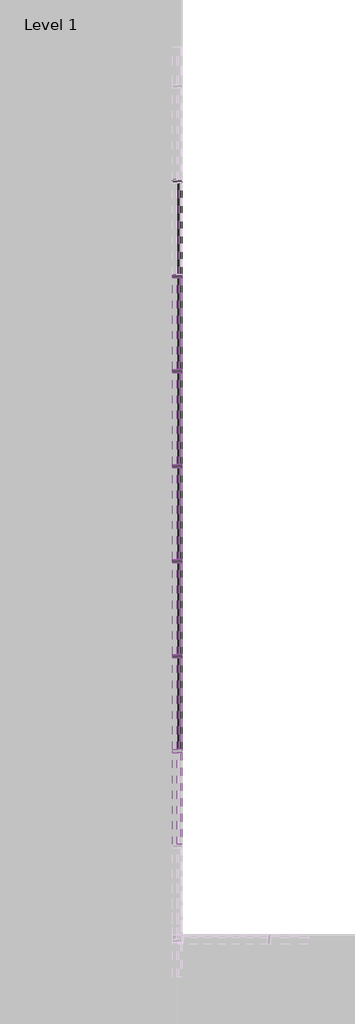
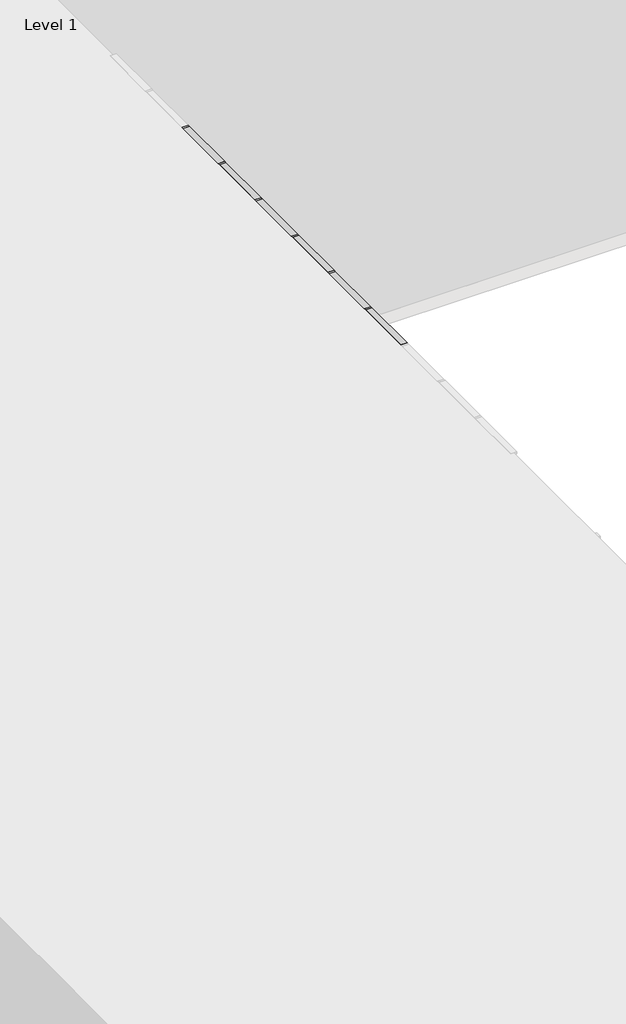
# One storey, part 12 of 27: 92 members, 43 plates.
"""IFC4 building model written with IfcOpenShell, lengths in millimetres."""

from ifc_helpers import new_model, si_unit, origin, place, context, project, spatial, transform, mapped, element, save
from components import rectangular_mullion_50mm_x_150mm_70cae3e1, rectangular_mullion_50mm_x_150mm_5226f6e8, rectangular_mullion_50mm_x_150mm_bbc1c4ea, rectangular_mullion_50mm_x_150mm_36202a7c, rectangular_mullion_50mm_x_150mm_84717ec5, system_panel_glazed_979b1f5c, system_panel_glazed_2f061a2c, system_panel_solid_7338a288, system_panel_solid_0b170172

model = new_model("IFC4")

# Units and contexts
model_context = context("Model", 3, world=origin())
ifc_project = project(units=[si_unit("LENGTHUNIT", "METRE", prefix="MILLI")], contexts=[model_context])

# Site, building, storey
site = spatial("IfcSite", under=ifc_project)
building = spatial("IfcBuilding", under=site)
storey = spatial("IfcBuildingStorey", under=building, Name="Level 1", Elevation=0.0)

# Members
placement = place(None, origin())
rectangular_mullion_50mm_x_150mm_shape = rectangular_mullion_50mm_x_150mm_70cae3e1(model_context)
element("IfcMember", 1, ObjectType="Rectangular Mullion : 50mm x 150mm", at=placement, inside=storey, context=model_context, shape_type="MappedRepresentation", body=[
    mapped(rectangular_mullion_50mm_x_150mm_shape, transform((7447.5010724, 4367.3626463, 12400.0), x_axis=(0.0, 0.0, 1.0), y_axis=(1.0, 0.0, 0.0), z_axis=(0.0, 1.0, 0.0))),
])
element("IfcMember", 2, ObjectType="Rectangular Mullion : 50mm x 150mm", at=placement, inside=storey, context=model_context, shape_type="MappedRepresentation", body=[
    mapped(rectangular_mullion_50mm_x_150mm_shape, transform((7447.5010724, 5869.6103022, 12400.0), x_axis=(0.0, 0.0, 1.0), y_axis=(1.0, 0.0, 0.0), z_axis=(0.0, 1.0, 0.0))),
])
element("IfcMember", 3, ObjectType="Rectangular Mullion : 50mm x 150mm", at=placement, inside=storey, context=model_context, shape_type="MappedRepresentation", body=[
    mapped(rectangular_mullion_50mm_x_150mm_shape, transform((7447.5010724, 7371.8579582, 12400.0), x_axis=(0.0, 0.0, 1.0), y_axis=(1.0, 0.0, 0.0), z_axis=(0.0, 1.0, 0.0))),
])
element("IfcMember", 4, ObjectType="Rectangular Mullion : 50mm x 150mm", at=placement, inside=storey, context=model_context, shape_type="MappedRepresentation", body=[
    mapped(rectangular_mullion_50mm_x_150mm_shape, transform((7447.5010724, 8874.1056141, 12400.0), x_axis=(0.0, 0.0, 1.0), y_axis=(1.0, 0.0, 0.0), z_axis=(0.0, 1.0, 0.0))),
])
element("IfcMember", 5, ObjectType="Rectangular Mullion : 50mm x 150mm", at=placement, inside=storey, context=model_context, shape_type="MappedRepresentation", body=[
    mapped(rectangular_mullion_50mm_x_150mm_shape, transform((7447.5010724, 10376.35327, 12400.0), x_axis=(0.0, 0.0, 1.0), y_axis=(1.0, 0.0, 0.0), z_axis=(0.0, 1.0, 0.0))),
])
element("IfcMember", 6, ObjectType="Rectangular Mullion : 50mm x 150mm", at=placement, inside=storey, context=model_context, shape_type="MappedRepresentation", body=[
    mapped(rectangular_mullion_50mm_x_150mm_shape, transform((7447.5010724, 11878.6009259, 12400.0), x_axis=(0.0, 0.0, 1.0), y_axis=(1.0, 0.0, 0.0), z_axis=(0.0, 1.0, 0.0))),
])
element("IfcMember", 7, ObjectType="Rectangular Mullion : 50mm x 150mm", at=placement, inside=storey, context=model_context, shape_type="MappedRepresentation", body=[
    mapped(rectangular_mullion_50mm_x_150mm_shape, transform((7447.5010724, 2915.1149904, 0.0), x_axis=(0.0, 0.0, -1.0), y_axis=(1.0, 0.0, 0.0), z_axis=(0.0, -1.0, 0.0))),
])
element("IfcMember", 8, ObjectType="Rectangular Mullion : 50mm x 150mm", at=placement, inside=storey, context=model_context, shape_type="MappedRepresentation", body=[
    mapped(rectangular_mullion_50mm_x_150mm_shape, transform((7447.5010724, 4417.3626463, 0.0), x_axis=(0.0, 0.0, -1.0), y_axis=(1.0, 0.0, 0.0), z_axis=(0.0, -1.0, 0.0))),
])
element("IfcMember", 9, ObjectType="Rectangular Mullion : 50mm x 150mm", at=placement, inside=storey, context=model_context, shape_type="MappedRepresentation", body=[
    mapped(rectangular_mullion_50mm_x_150mm_shape, transform((7447.5010724, 5919.6103022, 0.0), x_axis=(0.0, 0.0, -1.0), y_axis=(1.0, 0.0, 0.0), z_axis=(0.0, -1.0, 0.0))),
])
element("IfcMember", 10, ObjectType="Rectangular Mullion : 50mm x 150mm", at=placement, inside=storey, context=model_context, shape_type="MappedRepresentation", body=[
    mapped(rectangular_mullion_50mm_x_150mm_shape, transform((7447.5010724, 7421.8579582, 0.0), x_axis=(0.0, 0.0, -1.0), y_axis=(1.0, 0.0, 0.0), z_axis=(0.0, -1.0, 0.0))),
])
element("IfcMember", 11, ObjectType="Rectangular Mullion : 50mm x 150mm", at=placement, inside=storey, context=model_context, shape_type="MappedRepresentation", body=[
    mapped(rectangular_mullion_50mm_x_150mm_shape, transform((7447.5010724, 8924.1056141, 0.0), x_axis=(0.0, 0.0, -1.0), y_axis=(1.0, 0.0, 0.0), z_axis=(0.0, -1.0, 0.0))),
])
element("IfcMember", 12, ObjectType="Rectangular Mullion : 50mm x 150mm", at=placement, inside=storey, context=model_context, shape_type="MappedRepresentation", body=[
    mapped(rectangular_mullion_50mm_x_150mm_shape, transform((7447.5010724, 10426.35327, 0.0), x_axis=(0.0, 0.0, -1.0), y_axis=(1.0, 0.0, 0.0), z_axis=(0.0, -1.0, 0.0))),
])
rectangular_mullion_50mm_x_150mm_2_shape = rectangular_mullion_50mm_x_150mm_5226f6e8(model_context)
element("IfcMember", 13, ObjectType="Rectangular Mullion : 50mm x 150mm", at=placement, inside=storey, context=model_context, shape_type="MappedRepresentation", body=[
    mapped(rectangular_mullion_50mm_x_150mm_2_shape, transform((7447.5010724, 4367.3626463, 3800.0), x_axis=(0.0, 0.0, 1.0), y_axis=(1.0, 0.0, 0.0), z_axis=(0.0, 1.0, 0.0))),
])
element("IfcMember", 14, ObjectType="Rectangular Mullion : 50mm x 150mm", at=placement, inside=storey, context=model_context, shape_type="MappedRepresentation", body=[
    mapped(rectangular_mullion_50mm_x_150mm_2_shape, transform((7447.5010724, 5869.6103022, 3800.0), x_axis=(0.0, 0.0, 1.0), y_axis=(1.0, 0.0, 0.0), z_axis=(0.0, 1.0, 0.0))),
])
element("IfcMember", 15, ObjectType="Rectangular Mullion : 50mm x 150mm", at=placement, inside=storey, context=model_context, shape_type="MappedRepresentation", body=[
    mapped(rectangular_mullion_50mm_x_150mm_2_shape, transform((7447.5010724, 7371.8579582, 3800.0), x_axis=(0.0, 0.0, 1.0), y_axis=(1.0, 0.0, 0.0), z_axis=(0.0, 1.0, 0.0))),
])
element("IfcMember", 16, ObjectType="Rectangular Mullion : 50mm x 150mm", at=placement, inside=storey, context=model_context, shape_type="MappedRepresentation", body=[
    mapped(rectangular_mullion_50mm_x_150mm_2_shape, transform((7447.5010724, 8874.1056141, 3800.0), x_axis=(0.0, 0.0, 1.0), y_axis=(1.0, 0.0, 0.0), z_axis=(0.0, 1.0, 0.0))),
])
element("IfcMember", 17, ObjectType="Rectangular Mullion : 50mm x 150mm", at=placement, inside=storey, context=model_context, shape_type="MappedRepresentation", body=[
    mapped(rectangular_mullion_50mm_x_150mm_2_shape, transform((7447.5010724, 10376.35327, 3800.0), x_axis=(0.0, 0.0, 1.0), y_axis=(1.0, 0.0, 0.0), z_axis=(0.0, 1.0, 0.0))),
])
element("IfcMember", 18, ObjectType="Rectangular Mullion : 50mm x 150mm", at=placement, inside=storey, context=model_context, shape_type="MappedRepresentation", body=[
    mapped(rectangular_mullion_50mm_x_150mm_2_shape, transform((7447.5010724, 11878.6009259, 3800.0), x_axis=(0.0, 0.0, 1.0), y_axis=(1.0, 0.0, 0.0), z_axis=(0.0, 1.0, 0.0))),
])
element("IfcMember", 19, ObjectType="Rectangular Mullion : 50mm x 150mm", at=placement, inside=storey, context=model_context, shape_type="MappedRepresentation", body=[
    mapped(rectangular_mullion_50mm_x_150mm_2_shape, transform((7447.5010724, 4367.3626463, 7600.0), x_axis=(0.0, 0.0, 1.0), y_axis=(1.0, 0.0, 0.0), z_axis=(0.0, 1.0, 0.0))),
])
element("IfcMember", 20, ObjectType="Rectangular Mullion : 50mm x 150mm", at=placement, inside=storey, context=model_context, shape_type="MappedRepresentation", body=[
    mapped(rectangular_mullion_50mm_x_150mm_2_shape, transform((7447.5010724, 5869.6103022, 7600.0), x_axis=(0.0, 0.0, 1.0), y_axis=(1.0, 0.0, 0.0), z_axis=(0.0, 1.0, 0.0))),
])
element("IfcMember", 21, ObjectType="Rectangular Mullion : 50mm x 150mm", at=placement, inside=storey, context=model_context, shape_type="MappedRepresentation", body=[
    mapped(rectangular_mullion_50mm_x_150mm_2_shape, transform((7447.5010724, 7371.8579582, 7600.0), x_axis=(0.0, 0.0, 1.0), y_axis=(1.0, 0.0, 0.0), z_axis=(0.0, 1.0, 0.0))),
])
element("IfcMember", 22, ObjectType="Rectangular Mullion : 50mm x 150mm", at=placement, inside=storey, context=model_context, shape_type="MappedRepresentation", body=[
    mapped(rectangular_mullion_50mm_x_150mm_2_shape, transform((7447.5010724, 8874.1056141, 7600.0), x_axis=(0.0, 0.0, 1.0), y_axis=(1.0, 0.0, 0.0), z_axis=(0.0, 1.0, 0.0))),
])
element("IfcMember", 23, ObjectType="Rectangular Mullion : 50mm x 150mm", at=placement, inside=storey, context=model_context, shape_type="MappedRepresentation", body=[
    mapped(rectangular_mullion_50mm_x_150mm_2_shape, transform((7447.5010724, 10376.35327, 7600.0), x_axis=(0.0, 0.0, 1.0), y_axis=(1.0, 0.0, 0.0), z_axis=(0.0, 1.0, 0.0))),
])
element("IfcMember", 24, ObjectType="Rectangular Mullion : 50mm x 150mm", at=placement, inside=storey, context=model_context, shape_type="MappedRepresentation", body=[
    mapped(rectangular_mullion_50mm_x_150mm_2_shape, transform((7447.5010724, 11878.6009259, 7600.0), x_axis=(0.0, 0.0, 1.0), y_axis=(1.0, 0.0, 0.0), z_axis=(0.0, 1.0, 0.0))),
])
element("IfcMember", 25, ObjectType="Rectangular Mullion : 50mm x 150mm", at=placement, inside=storey, context=model_context, shape_type="MappedRepresentation", body=[
    mapped(rectangular_mullion_50mm_x_150mm_2_shape, transform((7447.5010724, 4367.3626463, 11400.0), x_axis=(0.0, 0.0, 1.0), y_axis=(1.0, 0.0, 0.0), z_axis=(0.0, 1.0, 0.0))),
])
element("IfcMember", 26, ObjectType="Rectangular Mullion : 50mm x 150mm", at=placement, inside=storey, context=model_context, shape_type="MappedRepresentation", body=[
    mapped(rectangular_mullion_50mm_x_150mm_2_shape, transform((7447.5010724, 5869.6103022, 11400.0), x_axis=(0.0, 0.0, 1.0), y_axis=(1.0, 0.0, 0.0), z_axis=(0.0, 1.0, 0.0))),
])
element("IfcMember", 27, ObjectType="Rectangular Mullion : 50mm x 150mm", at=placement, inside=storey, context=model_context, shape_type="MappedRepresentation", body=[
    mapped(rectangular_mullion_50mm_x_150mm_2_shape, transform((7447.5010724, 7371.8579582, 11400.0), x_axis=(0.0, 0.0, 1.0), y_axis=(1.0, 0.0, 0.0), z_axis=(0.0, 1.0, 0.0))),
])
element("IfcMember", 28, ObjectType="Rectangular Mullion : 50mm x 150mm", at=placement, inside=storey, context=model_context, shape_type="MappedRepresentation", body=[
    mapped(rectangular_mullion_50mm_x_150mm_2_shape, transform((7447.5010724, 8874.1056141, 11400.0), x_axis=(0.0, 0.0, 1.0), y_axis=(1.0, 0.0, 0.0), z_axis=(0.0, 1.0, 0.0))),
])
element("IfcMember", 29, ObjectType="Rectangular Mullion : 50mm x 150mm", at=placement, inside=storey, context=model_context, shape_type="MappedRepresentation", body=[
    mapped(rectangular_mullion_50mm_x_150mm_2_shape, transform((7447.5010724, 10376.35327, 11400.0), x_axis=(0.0, 0.0, 1.0), y_axis=(1.0, 0.0, 0.0), z_axis=(0.0, 1.0, 0.0))),
])
element("IfcMember", 30, ObjectType="Rectangular Mullion : 50mm x 150mm", at=placement, inside=storey, context=model_context, shape_type="MappedRepresentation", body=[
    mapped(rectangular_mullion_50mm_x_150mm_2_shape, transform((7447.5010724, 11878.6009259, 11400.0), x_axis=(0.0, 0.0, 1.0), y_axis=(1.0, 0.0, 0.0), z_axis=(0.0, 1.0, 0.0))),
])
element("IfcMember", 31, ObjectType="Rectangular Mullion : 50mm x 150mm", at=placement, inside=storey, context=model_context, shape_type="MappedRepresentation", body=[
    mapped(rectangular_mullion_50mm_x_150mm_2_shape, transform((7447.5010724, 2865.1149904, 10040.0), x_axis=(0.0, 0.0, 1.0), y_axis=(1.0, 0.0, 0.0), z_axis=(0.0, 1.0, 0.0))),
])
element("IfcMember", 32, ObjectType="Rectangular Mullion : 50mm x 150mm", at=placement, inside=storey, context=model_context, shape_type="MappedRepresentation", body=[
    mapped(rectangular_mullion_50mm_x_150mm_2_shape, transform((7447.5010724, 4367.3626463, 10040.0), x_axis=(0.0, 0.0, 1.0), y_axis=(1.0, 0.0, 0.0), z_axis=(0.0, 1.0, 0.0))),
])
element("IfcMember", 33, ObjectType="Rectangular Mullion : 50mm x 150mm", at=placement, inside=storey, context=model_context, shape_type="MappedRepresentation", body=[
    mapped(rectangular_mullion_50mm_x_150mm_2_shape, transform((7447.5010724, 5869.6103022, 10040.0), x_axis=(0.0, 0.0, 1.0), y_axis=(1.0, 0.0, 0.0), z_axis=(0.0, 1.0, 0.0))),
])
element("IfcMember", 34, ObjectType="Rectangular Mullion : 50mm x 150mm", at=placement, inside=storey, context=model_context, shape_type="MappedRepresentation", body=[
    mapped(rectangular_mullion_50mm_x_150mm_2_shape, transform((7447.5010724, 7371.8579582, 10040.0), x_axis=(0.0, 0.0, 1.0), y_axis=(1.0, 0.0, 0.0), z_axis=(0.0, 1.0, 0.0))),
])
element("IfcMember", 35, ObjectType="Rectangular Mullion : 50mm x 150mm", at=placement, inside=storey, context=model_context, shape_type="MappedRepresentation", body=[
    mapped(rectangular_mullion_50mm_x_150mm_2_shape, transform((7447.5010724, 8874.1056141, 10040.0), x_axis=(0.0, 0.0, 1.0), y_axis=(1.0, 0.0, 0.0), z_axis=(0.0, 1.0, 0.0))),
])
element("IfcMember", 36, ObjectType="Rectangular Mullion : 50mm x 150mm", at=placement, inside=storey, context=model_context, shape_type="MappedRepresentation", body=[
    mapped(rectangular_mullion_50mm_x_150mm_2_shape, transform((7447.5010724, 10376.35327, 10040.0), x_axis=(0.0, 0.0, 1.0), y_axis=(1.0, 0.0, 0.0), z_axis=(0.0, 1.0, 0.0))),
])
element("IfcMember", 37, ObjectType="Rectangular Mullion : 50mm x 150mm", at=placement, inside=storey, context=model_context, shape_type="MappedRepresentation", body=[
    mapped(rectangular_mullion_50mm_x_150mm_2_shape, transform((7447.5010724, 11878.6009259, 10040.0), x_axis=(0.0, 0.0, 1.0), y_axis=(1.0, 0.0, 0.0), z_axis=(0.0, 1.0, 0.0))),
])
element("IfcMember", 38, ObjectType="Rectangular Mullion : 50mm x 150mm", at=placement, inside=storey, context=model_context, shape_type="MappedRepresentation", body=[
    mapped(rectangular_mullion_50mm_x_150mm_2_shape, transform((7447.5010724, 2865.1149904, 6240.0), x_axis=(0.0, 0.0, 1.0), y_axis=(1.0, 0.0, 0.0), z_axis=(0.0, 1.0, 0.0))),
])
element("IfcMember", 39, ObjectType="Rectangular Mullion : 50mm x 150mm", at=placement, inside=storey, context=model_context, shape_type="MappedRepresentation", body=[
    mapped(rectangular_mullion_50mm_x_150mm_2_shape, transform((7447.5010724, 4367.3626463, 6240.0), x_axis=(0.0, 0.0, 1.0), y_axis=(1.0, 0.0, 0.0), z_axis=(0.0, 1.0, 0.0))),
])
element("IfcMember", 40, ObjectType="Rectangular Mullion : 50mm x 150mm", at=placement, inside=storey, context=model_context, shape_type="MappedRepresentation", body=[
    mapped(rectangular_mullion_50mm_x_150mm_2_shape, transform((7447.5010724, 5869.6103022, 6240.0), x_axis=(0.0, 0.0, 1.0), y_axis=(1.0, 0.0, 0.0), z_axis=(0.0, 1.0, 0.0))),
])
element("IfcMember", 41, ObjectType="Rectangular Mullion : 50mm x 150mm", at=placement, inside=storey, context=model_context, shape_type="MappedRepresentation", body=[
    mapped(rectangular_mullion_50mm_x_150mm_2_shape, transform((7447.5010724, 7371.8579582, 6240.0), x_axis=(0.0, 0.0, 1.0), y_axis=(1.0, 0.0, 0.0), z_axis=(0.0, 1.0, 0.0))),
])
element("IfcMember", 42, ObjectType="Rectangular Mullion : 50mm x 150mm", at=placement, inside=storey, context=model_context, shape_type="MappedRepresentation", body=[
    mapped(rectangular_mullion_50mm_x_150mm_2_shape, transform((7447.5010724, 8874.1056141, 6240.0), x_axis=(0.0, 0.0, 1.0), y_axis=(1.0, 0.0, 0.0), z_axis=(0.0, 1.0, 0.0))),
])
element("IfcMember", 43, ObjectType="Rectangular Mullion : 50mm x 150mm", at=placement, inside=storey, context=model_context, shape_type="MappedRepresentation", body=[
    mapped(rectangular_mullion_50mm_x_150mm_2_shape, transform((7447.5010724, 10376.35327, 6240.0), x_axis=(0.0, 0.0, 1.0), y_axis=(1.0, 0.0, 0.0), z_axis=(0.0, 1.0, 0.0))),
])
element("IfcMember", 44, ObjectType="Rectangular Mullion : 50mm x 150mm", at=placement, inside=storey, context=model_context, shape_type="MappedRepresentation", body=[
    mapped(rectangular_mullion_50mm_x_150mm_2_shape, transform((7447.5010724, 2865.1149904, 2440.0), x_axis=(0.0, 0.0, 1.0), y_axis=(1.0, 0.0, 0.0), z_axis=(0.0, 1.0, 0.0))),
])
element("IfcMember", 45, ObjectType="Rectangular Mullion : 50mm x 150mm", at=placement, inside=storey, context=model_context, shape_type="MappedRepresentation", body=[
    mapped(rectangular_mullion_50mm_x_150mm_2_shape, transform((7447.5010724, 4367.3626463, 2440.0), x_axis=(0.0, 0.0, 1.0), y_axis=(1.0, 0.0, 0.0), z_axis=(0.0, 1.0, 0.0))),
])
element("IfcMember", 46, ObjectType="Rectangular Mullion : 50mm x 150mm", at=placement, inside=storey, context=model_context, shape_type="MappedRepresentation", body=[
    mapped(rectangular_mullion_50mm_x_150mm_2_shape, transform((7447.5010724, 5869.6103022, 2440.0), x_axis=(0.0, 0.0, 1.0), y_axis=(1.0, 0.0, 0.0), z_axis=(0.0, 1.0, 0.0))),
])
element("IfcMember", 47, ObjectType="Rectangular Mullion : 50mm x 150mm", at=placement, inside=storey, context=model_context, shape_type="MappedRepresentation", body=[
    mapped(rectangular_mullion_50mm_x_150mm_2_shape, transform((7447.5010724, 7371.8579582, 2440.0), x_axis=(0.0, 0.0, 1.0), y_axis=(1.0, 0.0, 0.0), z_axis=(0.0, 1.0, 0.0))),
])
element("IfcMember", 48, ObjectType="Rectangular Mullion : 50mm x 150mm", at=placement, inside=storey, context=model_context, shape_type="MappedRepresentation", body=[
    mapped(rectangular_mullion_50mm_x_150mm_2_shape, transform((7447.5010724, 8874.1056141, 2440.0), x_axis=(0.0, 0.0, 1.0), y_axis=(1.0, 0.0, 0.0), z_axis=(0.0, 1.0, 0.0))),
])
element("IfcMember", 49, ObjectType="Rectangular Mullion : 50mm x 150mm", at=placement, inside=storey, context=model_context, shape_type="MappedRepresentation", body=[
    mapped(rectangular_mullion_50mm_x_150mm_2_shape, transform((7447.5010724, 10376.35327, 2440.0), x_axis=(0.0, 0.0, 1.0), y_axis=(1.0, 0.0, 0.0), z_axis=(0.0, 1.0, 0.0))),
])
rectangular_mullion_50mm_x_150mm_3_shape = rectangular_mullion_50mm_x_150mm_bbc1c4ea(model_context)
element("IfcMember", 50, ObjectType="Rectangular Mullion : 50mm x 150mm", at=placement, inside=storey, context=model_context, shape_type="MappedRepresentation", body=[
    mapped(rectangular_mullion_50mm_x_150mm_3_shape, transform((7447.5010724, 4392.3626463, 11400.0), x_axis=(0.0, 1.0, 0.0), y_axis=(1.0, 0.0, 0.0), z_axis=(0.0, 0.0, -1.0))),
])
element("IfcMember", 51, ObjectType="Rectangular Mullion : 50mm x 150mm", at=placement, inside=storey, context=model_context, shape_type="MappedRepresentation", body=[
    mapped(rectangular_mullion_50mm_x_150mm_3_shape, transform((7447.5010724, 5894.6103022, 11400.0), x_axis=(0.0, 1.0, 0.0), y_axis=(1.0, 0.0, 0.0), z_axis=(0.0, 0.0, -1.0))),
])
element("IfcMember", 52, ObjectType="Rectangular Mullion : 50mm x 150mm", at=placement, inside=storey, context=model_context, shape_type="MappedRepresentation", body=[
    mapped(rectangular_mullion_50mm_x_150mm_3_shape, transform((7447.5010724, 7396.8579582, 11400.0), x_axis=(0.0, 1.0, 0.0), y_axis=(1.0, 0.0, 0.0), z_axis=(0.0, 0.0, -1.0))),
])
element("IfcMember", 53, ObjectType="Rectangular Mullion : 50mm x 150mm", at=placement, inside=storey, context=model_context, shape_type="MappedRepresentation", body=[
    mapped(rectangular_mullion_50mm_x_150mm_3_shape, transform((7447.5010724, 8899.1056141, 11400.0), x_axis=(0.0, 1.0, 0.0), y_axis=(1.0, 0.0, 0.0), z_axis=(0.0, 0.0, -1.0))),
])
element("IfcMember", 54, ObjectType="Rectangular Mullion : 50mm x 150mm", at=placement, inside=storey, context=model_context, shape_type="MappedRepresentation", body=[
    mapped(rectangular_mullion_50mm_x_150mm_3_shape, transform((7447.5010724, 10401.35327, 11400.0), x_axis=(0.0, 1.0, 0.0), y_axis=(1.0, 0.0, 0.0), z_axis=(0.0, 0.0, -1.0))),
])
element("IfcMember", 55, ObjectType="Rectangular Mullion : 50mm x 150mm", at=placement, inside=storey, context=model_context, shape_type="MappedRepresentation", body=[
    mapped(rectangular_mullion_50mm_x_150mm_3_shape, transform((7447.5010724, 11903.6009259, 11400.0), x_axis=(0.0, 1.0, 0.0), y_axis=(1.0, 0.0, 0.0), z_axis=(0.0, 0.0, -1.0))),
])
rectangular_mullion_50mm_x_150mm_4_shape = rectangular_mullion_50mm_x_150mm_36202a7c(model_context)
element("IfcMember", 56, ObjectType="Rectangular Mullion : 50mm x 150mm", at=placement, inside=storey, context=model_context, shape_type="MappedRepresentation", body=[
    mapped(rectangular_mullion_50mm_x_150mm_4_shape, transform((7447.5010724, 4392.3626463, 0.0), x_axis=(0.0, 1.0, 0.0), y_axis=(1.0, 0.0, 0.0), z_axis=(0.0, 0.0, -1.0))),
])
element("IfcMember", 57, ObjectType="Rectangular Mullion : 50mm x 150mm", at=placement, inside=storey, context=model_context, shape_type="MappedRepresentation", body=[
    mapped(rectangular_mullion_50mm_x_150mm_4_shape, transform((7447.5010724, 5894.6103022, 0.0), x_axis=(0.0, 1.0, 0.0), y_axis=(1.0, 0.0, 0.0), z_axis=(0.0, 0.0, -1.0))),
])
element("IfcMember", 58, ObjectType="Rectangular Mullion : 50mm x 150mm", at=placement, inside=storey, context=model_context, shape_type="MappedRepresentation", body=[
    mapped(rectangular_mullion_50mm_x_150mm_4_shape, transform((7447.5010724, 7396.8579582, 0.0), x_axis=(0.0, 1.0, 0.0), y_axis=(1.0, 0.0, 0.0), z_axis=(0.0, 0.0, -1.0))),
])
element("IfcMember", 59, ObjectType="Rectangular Mullion : 50mm x 150mm", at=placement, inside=storey, context=model_context, shape_type="MappedRepresentation", body=[
    mapped(rectangular_mullion_50mm_x_150mm_4_shape, transform((7447.5010724, 8899.1056141, 0.0), x_axis=(0.0, 1.0, 0.0), y_axis=(1.0, 0.0, 0.0), z_axis=(0.0, 0.0, -1.0))),
])
element("IfcMember", 60, ObjectType="Rectangular Mullion : 50mm x 150mm", at=placement, inside=storey, context=model_context, shape_type="MappedRepresentation", body=[
    mapped(rectangular_mullion_50mm_x_150mm_4_shape, transform((7447.5010724, 10401.35327, 0.0), x_axis=(0.0, 1.0, 0.0), y_axis=(1.0, 0.0, 0.0), z_axis=(0.0, 0.0, -1.0))),
])
element("IfcMember", 61, ObjectType="Rectangular Mullion : 50mm x 150mm", at=placement, inside=storey, context=model_context, shape_type="MappedRepresentation", body=[
    mapped(rectangular_mullion_50mm_x_150mm_4_shape, transform((7447.5010724, 11903.6009259, 0.0), x_axis=(0.0, 1.0, 0.0), y_axis=(1.0, 0.0, 0.0), z_axis=(0.0, 0.0, -1.0))),
])
rectangular_mullion_50mm_x_150mm_5_shape = rectangular_mullion_50mm_x_150mm_84717ec5(model_context)
element("IfcMember", 62, ObjectType="Rectangular Mullion : 50mm x 150mm", at=placement, inside=storey, context=model_context, shape_type="MappedRepresentation", body=[
    mapped(rectangular_mullion_50mm_x_150mm_5_shape, transform((7447.5010724, 2890.1149904, 10040.0), x_axis=(0.0, 1.0, 0.0), y_axis=(1.0, 0.0, 0.0), z_axis=(0.0, 0.0, -1.0))),
])
element("IfcMember", 63, ObjectType="Rectangular Mullion : 50mm x 150mm", at=placement, inside=storey, context=model_context, shape_type="MappedRepresentation", body=[
    mapped(rectangular_mullion_50mm_x_150mm_5_shape, transform((7447.5010724, 4392.3626463, 10040.0), x_axis=(0.0, 1.0, 0.0), y_axis=(1.0, 0.0, 0.0), z_axis=(0.0, 0.0, -1.0))),
])
element("IfcMember", 64, ObjectType="Rectangular Mullion : 50mm x 150mm", at=placement, inside=storey, context=model_context, shape_type="MappedRepresentation", body=[
    mapped(rectangular_mullion_50mm_x_150mm_5_shape, transform((7447.5010724, 5894.6103022, 10040.0), x_axis=(0.0, 1.0, 0.0), y_axis=(1.0, 0.0, 0.0), z_axis=(0.0, 0.0, -1.0))),
])
element("IfcMember", 65, ObjectType="Rectangular Mullion : 50mm x 150mm", at=placement, inside=storey, context=model_context, shape_type="MappedRepresentation", body=[
    mapped(rectangular_mullion_50mm_x_150mm_5_shape, transform((7447.5010724, 7396.8579582, 10040.0), x_axis=(0.0, 1.0, 0.0), y_axis=(1.0, 0.0, 0.0), z_axis=(0.0, 0.0, -1.0))),
])
element("IfcMember", 66, ObjectType="Rectangular Mullion : 50mm x 150mm", at=placement, inside=storey, context=model_context, shape_type="MappedRepresentation", body=[
    mapped(rectangular_mullion_50mm_x_150mm_5_shape, transform((7447.5010724, 8899.1056141, 10040.0), x_axis=(0.0, 1.0, 0.0), y_axis=(1.0, 0.0, 0.0), z_axis=(0.0, 0.0, -1.0))),
])
element("IfcMember", 67, ObjectType="Rectangular Mullion : 50mm x 150mm", at=placement, inside=storey, context=model_context, shape_type="MappedRepresentation", body=[
    mapped(rectangular_mullion_50mm_x_150mm_5_shape, transform((7447.5010724, 10401.35327, 10040.0), x_axis=(0.0, 1.0, 0.0), y_axis=(1.0, 0.0, 0.0), z_axis=(0.0, 0.0, -1.0))),
])
element("IfcMember", 68, ObjectType="Rectangular Mullion : 50mm x 150mm", at=placement, inside=storey, context=model_context, shape_type="MappedRepresentation", body=[
    mapped(rectangular_mullion_50mm_x_150mm_5_shape, transform((7447.5010724, 11903.6009259, 10040.0), x_axis=(0.0, 1.0, 0.0), y_axis=(1.0, 0.0, 0.0), z_axis=(0.0, 0.0, -1.0))),
])
element("IfcMember", 69, ObjectType="Rectangular Mullion : 50mm x 150mm", at=placement, inside=storey, context=model_context, shape_type="MappedRepresentation", body=[
    mapped(rectangular_mullion_50mm_x_150mm_5_shape, transform((7447.5010724, 2890.1149904, 6240.0), x_axis=(0.0, 1.0, 0.0), y_axis=(1.0, 0.0, 0.0), z_axis=(0.0, 0.0, -1.0))),
])
element("IfcMember", 70, ObjectType="Rectangular Mullion : 50mm x 150mm", at=placement, inside=storey, context=model_context, shape_type="MappedRepresentation", body=[
    mapped(rectangular_mullion_50mm_x_150mm_5_shape, transform((7447.5010724, 4392.3626463, 6240.0), x_axis=(0.0, 1.0, 0.0), y_axis=(1.0, 0.0, 0.0), z_axis=(0.0, 0.0, -1.0))),
])
element("IfcMember", 71, ObjectType="Rectangular Mullion : 50mm x 150mm", at=placement, inside=storey, context=model_context, shape_type="MappedRepresentation", body=[
    mapped(rectangular_mullion_50mm_x_150mm_5_shape, transform((7447.5010724, 5894.6103022, 6240.0), x_axis=(0.0, 1.0, 0.0), y_axis=(1.0, 0.0, 0.0), z_axis=(0.0, 0.0, -1.0))),
])
element("IfcMember", 72, ObjectType="Rectangular Mullion : 50mm x 150mm", at=placement, inside=storey, context=model_context, shape_type="MappedRepresentation", body=[
    mapped(rectangular_mullion_50mm_x_150mm_5_shape, transform((7447.5010724, 7396.8579582, 6240.0), x_axis=(0.0, 1.0, 0.0), y_axis=(1.0, 0.0, 0.0), z_axis=(0.0, 0.0, -1.0))),
])
element("IfcMember", 73, ObjectType="Rectangular Mullion : 50mm x 150mm", at=placement, inside=storey, context=model_context, shape_type="MappedRepresentation", body=[
    mapped(rectangular_mullion_50mm_x_150mm_5_shape, transform((7447.5010724, 8899.1056141, 6240.0), x_axis=(0.0, 1.0, 0.0), y_axis=(1.0, 0.0, 0.0), z_axis=(0.0, 0.0, -1.0))),
])
element("IfcMember", 74, ObjectType="Rectangular Mullion : 50mm x 150mm", at=placement, inside=storey, context=model_context, shape_type="MappedRepresentation", body=[
    mapped(rectangular_mullion_50mm_x_150mm_5_shape, transform((7447.5010724, 10401.35327, 6240.0), x_axis=(0.0, 1.0, 0.0), y_axis=(1.0, 0.0, 0.0), z_axis=(0.0, 0.0, -1.0))),
])
element("IfcMember", 75, ObjectType="Rectangular Mullion : 50mm x 150mm", at=placement, inside=storey, context=model_context, shape_type="MappedRepresentation", body=[
    mapped(rectangular_mullion_50mm_x_150mm_5_shape, transform((7447.5010724, 2890.1149904, 2440.0), x_axis=(0.0, 1.0, 0.0), y_axis=(1.0, 0.0, 0.0), z_axis=(0.0, 0.0, -1.0))),
])
element("IfcMember", 76, ObjectType="Rectangular Mullion : 50mm x 150mm", at=placement, inside=storey, context=model_context, shape_type="MappedRepresentation", body=[
    mapped(rectangular_mullion_50mm_x_150mm_5_shape, transform((7447.5010724, 4392.3626463, 2440.0), x_axis=(0.0, 1.0, 0.0), y_axis=(1.0, 0.0, 0.0), z_axis=(0.0, 0.0, -1.0))),
])
element("IfcMember", 77, ObjectType="Rectangular Mullion : 50mm x 150mm", at=placement, inside=storey, context=model_context, shape_type="MappedRepresentation", body=[
    mapped(rectangular_mullion_50mm_x_150mm_5_shape, transform((7447.5010724, 5894.6103022, 2440.0), x_axis=(0.0, 1.0, 0.0), y_axis=(1.0, 0.0, 0.0), z_axis=(0.0, 0.0, -1.0))),
])
element("IfcMember", 78, ObjectType="Rectangular Mullion : 50mm x 150mm", at=placement, inside=storey, context=model_context, shape_type="MappedRepresentation", body=[
    mapped(rectangular_mullion_50mm_x_150mm_5_shape, transform((7447.5010724, 7396.8579582, 2440.0), x_axis=(0.0, 1.0, 0.0), y_axis=(1.0, 0.0, 0.0), z_axis=(0.0, 0.0, -1.0))),
])
element("IfcMember", 79, ObjectType="Rectangular Mullion : 50mm x 150mm", at=placement, inside=storey, context=model_context, shape_type="MappedRepresentation", body=[
    mapped(rectangular_mullion_50mm_x_150mm_5_shape, transform((7447.5010724, 8899.1056141, 2440.0), x_axis=(0.0, 1.0, 0.0), y_axis=(1.0, 0.0, 0.0), z_axis=(0.0, 0.0, -1.0))),
])
element("IfcMember", 80, ObjectType="Rectangular Mullion : 50mm x 150mm", at=placement, inside=storey, context=model_context, shape_type="MappedRepresentation", body=[
    mapped(rectangular_mullion_50mm_x_150mm_5_shape, transform((7447.5010724, 10401.35327, 2440.0), x_axis=(0.0, 1.0, 0.0), y_axis=(1.0, 0.0, 0.0), z_axis=(0.0, 0.0, -1.0))),
])
element("IfcMember", 81, ObjectType="Rectangular Mullion : 50mm x 150mm", at=placement, inside=storey, context=model_context, shape_type="MappedRepresentation", body=[
    mapped(rectangular_mullion_50mm_x_150mm_4_shape, transform((7447.5010724, 4392.3626463, 3800.0), x_axis=(0.0, 1.0, 0.0), y_axis=(1.0, 0.0, 0.0), z_axis=(0.0, 0.0, -1.0))),
])
element("IfcMember", 82, ObjectType="Rectangular Mullion : 50mm x 150mm", at=placement, inside=storey, context=model_context, shape_type="MappedRepresentation", body=[
    mapped(rectangular_mullion_50mm_x_150mm_4_shape, transform((7447.5010724, 5894.6103022, 3800.0), x_axis=(0.0, 1.0, 0.0), y_axis=(1.0, 0.0, 0.0), z_axis=(0.0, 0.0, -1.0))),
])
element("IfcMember", 83, ObjectType="Rectangular Mullion : 50mm x 150mm", at=placement, inside=storey, context=model_context, shape_type="MappedRepresentation", body=[
    mapped(rectangular_mullion_50mm_x_150mm_4_shape, transform((7447.5010724, 7396.8579582, 3800.0), x_axis=(0.0, 1.0, 0.0), y_axis=(1.0, 0.0, 0.0), z_axis=(0.0, 0.0, -1.0))),
])
element("IfcMember", 84, ObjectType="Rectangular Mullion : 50mm x 150mm", at=placement, inside=storey, context=model_context, shape_type="MappedRepresentation", body=[
    mapped(rectangular_mullion_50mm_x_150mm_4_shape, transform((7447.5010724, 8899.1056141, 3800.0), x_axis=(0.0, 1.0, 0.0), y_axis=(1.0, 0.0, 0.0), z_axis=(0.0, 0.0, -1.0))),
])
element("IfcMember", 85, ObjectType="Rectangular Mullion : 50mm x 150mm", at=placement, inside=storey, context=model_context, shape_type="MappedRepresentation", body=[
    mapped(rectangular_mullion_50mm_x_150mm_4_shape, transform((7447.5010724, 10401.35327, 3800.0), x_axis=(0.0, 1.0, 0.0), y_axis=(1.0, 0.0, 0.0), z_axis=(0.0, 0.0, -1.0))),
])
element("IfcMember", 86, ObjectType="Rectangular Mullion : 50mm x 150mm", at=placement, inside=storey, context=model_context, shape_type="MappedRepresentation", body=[
    mapped(rectangular_mullion_50mm_x_150mm_4_shape, transform((7447.5010724, 11903.6009259, 3800.0), x_axis=(0.0, 1.0, 0.0), y_axis=(1.0, 0.0, 0.0), z_axis=(0.0, 0.0, -1.0))),
])
element("IfcMember", 87, ObjectType="Rectangular Mullion : 50mm x 150mm", at=placement, inside=storey, context=model_context, shape_type="MappedRepresentation", body=[
    mapped(rectangular_mullion_50mm_x_150mm_4_shape, transform((7447.5010724, 4392.3626463, 7600.0), x_axis=(0.0, 1.0, 0.0), y_axis=(1.0, 0.0, 0.0), z_axis=(0.0, 0.0, -1.0))),
])
element("IfcMember", 88, ObjectType="Rectangular Mullion : 50mm x 150mm", at=placement, inside=storey, context=model_context, shape_type="MappedRepresentation", body=[
    mapped(rectangular_mullion_50mm_x_150mm_4_shape, transform((7447.5010724, 5894.6103022, 7600.0), x_axis=(0.0, 1.0, 0.0), y_axis=(1.0, 0.0, 0.0), z_axis=(0.0, 0.0, -1.0))),
])
element("IfcMember", 89, ObjectType="Rectangular Mullion : 50mm x 150mm", at=placement, inside=storey, context=model_context, shape_type="MappedRepresentation", body=[
    mapped(rectangular_mullion_50mm_x_150mm_4_shape, transform((7447.5010724, 7396.8579582, 7600.0), x_axis=(0.0, 1.0, 0.0), y_axis=(1.0, 0.0, 0.0), z_axis=(0.0, 0.0, -1.0))),
])
element("IfcMember", 90, ObjectType="Rectangular Mullion : 50mm x 150mm", at=placement, inside=storey, context=model_context, shape_type="MappedRepresentation", body=[
    mapped(rectangular_mullion_50mm_x_150mm_4_shape, transform((7447.5010724, 8899.1056141, 7600.0), x_axis=(0.0, 1.0, 0.0), y_axis=(1.0, 0.0, 0.0), z_axis=(0.0, 0.0, -1.0))),
])
element("IfcMember", 91, ObjectType="Rectangular Mullion : 50mm x 150mm", at=placement, inside=storey, context=model_context, shape_type="MappedRepresentation", body=[
    mapped(rectangular_mullion_50mm_x_150mm_4_shape, transform((7447.5010724, 10401.35327, 7600.0), x_axis=(0.0, 1.0, 0.0), y_axis=(1.0, 0.0, 0.0), z_axis=(0.0, 0.0, -1.0))),
])
element("IfcMember", 92, ObjectType="Rectangular Mullion : 50mm x 150mm", at=placement, inside=storey, context=model_context, shape_type="MappedRepresentation", body=[
    mapped(rectangular_mullion_50mm_x_150mm_4_shape, transform((7447.5010724, 11903.6009259, 7600.0), x_axis=(0.0, 1.0, 0.0), y_axis=(1.0, 0.0, 0.0), z_axis=(0.0, 0.0, -1.0))),
])

# Plates
system_panel_glazed_shape = system_panel_glazed_979b1f5c(model_context)
element("IfcPlate", 93, ObjectType="System Panel : Glazed", at=placement, inside=storey, context=model_context, shape_type="MappedRepresentation", body=[
    mapped(system_panel_glazed_shape, transform((7447.5010724, 3641.2388183, 3825.0), x_axis=(0.0, 1.0, 0.0), y_axis=(-1.0, 0.0, 0.0), z_axis=(0.0, 0.0, 1.0))),
])
element("IfcPlate", 94, ObjectType="System Panel : Glazed", at=placement, inside=storey, context=model_context, shape_type="MappedRepresentation", body=[
    mapped(system_panel_glazed_shape, transform((7447.5010724, 5143.4864743, 3825.0), x_axis=(0.0, 1.0, 0.0), y_axis=(-1.0, 0.0, 0.0), z_axis=(0.0, 0.0, 1.0))),
])
element("IfcPlate", 95, ObjectType="System Panel : Glazed", at=placement, inside=storey, context=model_context, shape_type="MappedRepresentation", body=[
    mapped(system_panel_glazed_shape, transform((7447.5010724, 6645.7341302, 3825.0), x_axis=(0.0, 1.0, 0.0), y_axis=(-1.0, 0.0, 0.0), z_axis=(0.0, 0.0, 1.0))),
])
element("IfcPlate", 96, ObjectType="System Panel : Glazed", at=placement, inside=storey, context=model_context, shape_type="MappedRepresentation", body=[
    mapped(system_panel_glazed_shape, transform((7447.5010724, 8147.9817861, 3825.0), x_axis=(0.0, 1.0, 0.0), y_axis=(-1.0, 0.0, 0.0), z_axis=(0.0, 0.0, 1.0))),
])
element("IfcPlate", 97, ObjectType="System Panel : Glazed", at=placement, inside=storey, context=model_context, shape_type="MappedRepresentation", body=[
    mapped(system_panel_glazed_shape, transform((7447.5010724, 9650.229442, 3825.0), x_axis=(0.0, 1.0, 0.0), y_axis=(-1.0, 0.0, 0.0), z_axis=(0.0, 0.0, 1.0))),
])
element("IfcPlate", 98, ObjectType="System Panel : Glazed", at=placement, inside=storey, context=model_context, shape_type="MappedRepresentation", body=[
    mapped(system_panel_glazed_shape, transform((7447.5010724, 11152.477098, 3825.0), x_axis=(0.0, 1.0, 0.0), y_axis=(-1.0, 0.0, 0.0), z_axis=(0.0, 0.0, 1.0))),
])
element("IfcPlate", 99, ObjectType="System Panel : Glazed", at=placement, inside=storey, context=model_context, shape_type="MappedRepresentation", body=[
    mapped(system_panel_glazed_shape, transform((7447.5010724, 3641.2388183, 7625.0), x_axis=(0.0, 1.0, 0.0), y_axis=(-1.0, 0.0, 0.0), z_axis=(0.0, 0.0, 1.0))),
])
element("IfcPlate", 100, ObjectType="System Panel : Glazed", at=placement, inside=storey, context=model_context, shape_type="MappedRepresentation", body=[
    mapped(system_panel_glazed_shape, transform((7447.5010724, 5143.4864743, 7625.0), x_axis=(0.0, 1.0, 0.0), y_axis=(-1.0, 0.0, 0.0), z_axis=(0.0, 0.0, 1.0))),
])
element("IfcPlate", 101, ObjectType="System Panel : Glazed", at=placement, inside=storey, context=model_context, shape_type="MappedRepresentation", body=[
    mapped(system_panel_glazed_shape, transform((7447.5010724, 6645.7341302, 7625.0), x_axis=(0.0, 1.0, 0.0), y_axis=(-1.0, 0.0, 0.0), z_axis=(0.0, 0.0, 1.0))),
])
element("IfcPlate", 102, ObjectType="System Panel : Glazed", at=placement, inside=storey, context=model_context, shape_type="MappedRepresentation", body=[
    mapped(system_panel_glazed_shape, transform((7447.5010724, 8147.9817861, 7625.0), x_axis=(0.0, 1.0, 0.0), y_axis=(-1.0, 0.0, 0.0), z_axis=(0.0, 0.0, 1.0))),
])
element("IfcPlate", 103, ObjectType="System Panel : Glazed", at=placement, inside=storey, context=model_context, shape_type="MappedRepresentation", body=[
    mapped(system_panel_glazed_shape, transform((7447.5010724, 9650.229442, 7625.0), x_axis=(0.0, 1.0, 0.0), y_axis=(-1.0, 0.0, 0.0), z_axis=(0.0, 0.0, 1.0))),
])
element("IfcPlate", 104, ObjectType="System Panel : Glazed", at=placement, inside=storey, context=model_context, shape_type="MappedRepresentation", body=[
    mapped(system_panel_glazed_shape, transform((7447.5010724, 11152.477098, 7625.0), x_axis=(0.0, 1.0, 0.0), y_axis=(-1.0, 0.0, 0.0), z_axis=(0.0, 0.0, 1.0))),
])
system_panel_glazed_2_shape = system_panel_glazed_2f061a2c(model_context)
element("IfcPlate", 105, ObjectType="System Panel : Glazed", at=placement, inside=storey, context=model_context, shape_type="MappedRepresentation", body=[
    mapped(system_panel_glazed_2_shape, transform((7447.5010724, 3641.2388183, 50.0), x_axis=(0.0, 1.0, 0.0), y_axis=(-1.0, 0.0, 0.0), z_axis=(0.0, 0.0, 1.0))),
])
element("IfcPlate", 106, ObjectType="System Panel : Glazed", at=placement, inside=storey, context=model_context, shape_type="MappedRepresentation", body=[
    mapped(system_panel_glazed_2_shape, transform((7447.5010724, 5143.4864743, 50.0), x_axis=(0.0, 1.0, 0.0), y_axis=(-1.0, 0.0, 0.0), z_axis=(0.0, 0.0, 1.0))),
])
element("IfcPlate", 107, ObjectType="System Panel : Glazed", at=placement, inside=storey, context=model_context, shape_type="MappedRepresentation", body=[
    mapped(system_panel_glazed_2_shape, transform((7447.5010724, 6645.7341302, 50.0), x_axis=(0.0, 1.0, 0.0), y_axis=(-1.0, 0.0, 0.0), z_axis=(0.0, 0.0, 1.0))),
])
element("IfcPlate", 108, ObjectType="System Panel : Glazed", at=placement, inside=storey, context=model_context, shape_type="MappedRepresentation", body=[
    mapped(system_panel_glazed_2_shape, transform((7447.5010724, 8147.9817861, 50.0), x_axis=(0.0, 1.0, 0.0), y_axis=(-1.0, 0.0, 0.0), z_axis=(0.0, 0.0, 1.0))),
])
element("IfcPlate", 109, ObjectType="System Panel : Glazed", at=placement, inside=storey, context=model_context, shape_type="MappedRepresentation", body=[
    mapped(system_panel_glazed_2_shape, transform((7447.5010724, 9650.229442, 50.0), x_axis=(0.0, 1.0, 0.0), y_axis=(-1.0, 0.0, 0.0), z_axis=(0.0, 0.0, 1.0))),
])
element("IfcPlate", 110, ObjectType="System Panel : Glazed", at=placement, inside=storey, context=model_context, shape_type="MappedRepresentation", body=[
    mapped(system_panel_glazed_2_shape, transform((7447.5010724, 11152.477098, 50.0), x_axis=(0.0, 1.0, 0.0), y_axis=(-1.0, 0.0, 0.0), z_axis=(0.0, 0.0, 1.0))),
])
system_panel_solid_shape = system_panel_solid_7338a288(model_context)
element("IfcPlate", 111, ObjectType="System Panel : Solid", at=placement, inside=storey, context=model_context, shape_type="MappedRepresentation", body=[
    mapped(system_panel_solid_shape, transform((7447.5010724, 3641.2388183, 11425.0), x_axis=(0.0, 1.0, 0.0), y_axis=(-1.0, 0.0, 0.0), z_axis=(0.0, 0.0, 1.0))),
])
element("IfcPlate", 112, ObjectType="System Panel : Solid", at=placement, inside=storey, context=model_context, shape_type="MappedRepresentation", body=[
    mapped(system_panel_solid_shape, transform((7447.5010724, 5143.4864743, 11425.0), x_axis=(0.0, 1.0, 0.0), y_axis=(-1.0, 0.0, 0.0), z_axis=(0.0, 0.0, 1.0))),
])
element("IfcPlate", 113, ObjectType="System Panel : Solid", at=placement, inside=storey, context=model_context, shape_type="MappedRepresentation", body=[
    mapped(system_panel_solid_shape, transform((7447.5010724, 6645.7341302, 11425.0), x_axis=(0.0, 1.0, 0.0), y_axis=(-1.0, 0.0, 0.0), z_axis=(0.0, 0.0, 1.0))),
])
element("IfcPlate", 114, ObjectType="System Panel : Solid", at=placement, inside=storey, context=model_context, shape_type="MappedRepresentation", body=[
    mapped(system_panel_solid_shape, transform((7447.5010724, 8147.9817861, 11425.0), x_axis=(0.0, 1.0, 0.0), y_axis=(-1.0, 0.0, 0.0), z_axis=(0.0, 0.0, 1.0))),
])
element("IfcPlate", 115, ObjectType="System Panel : Solid", at=placement, inside=storey, context=model_context, shape_type="MappedRepresentation", body=[
    mapped(system_panel_solid_shape, transform((7447.5010724, 9650.229442, 11425.0), x_axis=(0.0, 1.0, 0.0), y_axis=(-1.0, 0.0, 0.0), z_axis=(0.0, 0.0, 1.0))),
])
element("IfcPlate", 116, ObjectType="System Panel : Solid", at=placement, inside=storey, context=model_context, shape_type="MappedRepresentation", body=[
    mapped(system_panel_solid_shape, transform((7447.5010724, 11152.477098, 11425.0), x_axis=(0.0, 1.0, 0.0), y_axis=(-1.0, 0.0, 0.0), z_axis=(0.0, 0.0, 1.0))),
])
system_panel_solid_2_shape = system_panel_solid_0b170172(model_context)
element("IfcPlate", 117, ObjectType="System Panel : Solid", at=placement, inside=storey, context=model_context, shape_type="MappedRepresentation", body=[
    mapped(system_panel_solid_2_shape, transform((7447.5010724, 2138.9911624, 10065.0), x_axis=(0.0, 1.0, 0.0), y_axis=(-1.0, 0.0, 0.0), z_axis=(0.0, 0.0, 1.0))),
])
element("IfcPlate", 118, ObjectType="System Panel : Solid", at=placement, inside=storey, context=model_context, shape_type="MappedRepresentation", body=[
    mapped(system_panel_solid_2_shape, transform((7447.5010724, 3641.2388183, 10065.0), x_axis=(0.0, 1.0, 0.0), y_axis=(-1.0, 0.0, 0.0), z_axis=(0.0, 0.0, 1.0))),
])
element("IfcPlate", 119, ObjectType="System Panel : Solid", at=placement, inside=storey, context=model_context, shape_type="MappedRepresentation", body=[
    mapped(system_panel_solid_2_shape, transform((7447.5010724, 5143.4864743, 10065.0), x_axis=(0.0, 1.0, 0.0), y_axis=(-1.0, 0.0, 0.0), z_axis=(0.0, 0.0, 1.0))),
])
element("IfcPlate", 120, ObjectType="System Panel : Solid", at=placement, inside=storey, context=model_context, shape_type="MappedRepresentation", body=[
    mapped(system_panel_solid_2_shape, transform((7447.5010724, 6645.7341302, 10065.0), x_axis=(0.0, 1.0, 0.0), y_axis=(-1.0, 0.0, 0.0), z_axis=(0.0, 0.0, 1.0))),
])
element("IfcPlate", 121, ObjectType="System Panel : Solid", at=placement, inside=storey, context=model_context, shape_type="MappedRepresentation", body=[
    mapped(system_panel_solid_2_shape, transform((7447.5010724, 8147.9817861, 10065.0), x_axis=(0.0, 1.0, 0.0), y_axis=(-1.0, 0.0, 0.0), z_axis=(0.0, 0.0, 1.0))),
])
element("IfcPlate", 122, ObjectType="System Panel : Solid", at=placement, inside=storey, context=model_context, shape_type="MappedRepresentation", body=[
    mapped(system_panel_solid_2_shape, transform((7447.5010724, 9650.229442, 10065.0), x_axis=(0.0, 1.0, 0.0), y_axis=(-1.0, 0.0, 0.0), z_axis=(0.0, 0.0, 1.0))),
])
element("IfcPlate", 123, ObjectType="System Panel : Solid", at=placement, inside=storey, context=model_context, shape_type="MappedRepresentation", body=[
    mapped(system_panel_solid_2_shape, transform((7447.5010724, 11152.477098, 10065.0), x_axis=(0.0, 1.0, 0.0), y_axis=(-1.0, 0.0, 0.0), z_axis=(0.0, 0.0, 1.0))),
])
element("IfcPlate", 124, ObjectType="System Panel : Solid", at=placement, inside=storey, context=model_context, shape_type="MappedRepresentation", body=[
    mapped(system_panel_solid_2_shape, transform((7447.5010724, 2138.9911624, 6265.0), x_axis=(0.0, 1.0, 0.0), y_axis=(-1.0, 0.0, 0.0), z_axis=(0.0, 0.0, 1.0))),
])
element("IfcPlate", 125, ObjectType="System Panel : Solid", at=placement, inside=storey, context=model_context, shape_type="MappedRepresentation", body=[
    mapped(system_panel_solid_2_shape, transform((7447.5010724, 3641.2388183, 6265.0), x_axis=(0.0, 1.0, 0.0), y_axis=(-1.0, 0.0, 0.0), z_axis=(0.0, 0.0, 1.0))),
])
element("IfcPlate", 126, ObjectType="System Panel : Solid", at=placement, inside=storey, context=model_context, shape_type="MappedRepresentation", body=[
    mapped(system_panel_solid_2_shape, transform((7447.5010724, 5143.4864743, 6265.0), x_axis=(0.0, 1.0, 0.0), y_axis=(-1.0, 0.0, 0.0), z_axis=(0.0, 0.0, 1.0))),
])
element("IfcPlate", 127, ObjectType="System Panel : Solid", at=placement, inside=storey, context=model_context, shape_type="MappedRepresentation", body=[
    mapped(system_panel_solid_2_shape, transform((7447.5010724, 6645.7341302, 6265.0), x_axis=(0.0, 1.0, 0.0), y_axis=(-1.0, 0.0, 0.0), z_axis=(0.0, 0.0, 1.0))),
])
element("IfcPlate", 128, ObjectType="System Panel : Solid", at=placement, inside=storey, context=model_context, shape_type="MappedRepresentation", body=[
    mapped(system_panel_solid_2_shape, transform((7447.5010724, 8147.9817861, 6265.0), x_axis=(0.0, 1.0, 0.0), y_axis=(-1.0, 0.0, 0.0), z_axis=(0.0, 0.0, 1.0))),
])
element("IfcPlate", 129, ObjectType="System Panel : Solid", at=placement, inside=storey, context=model_context, shape_type="MappedRepresentation", body=[
    mapped(system_panel_solid_2_shape, transform((7447.5010724, 9650.229442, 6265.0), x_axis=(0.0, 1.0, 0.0), y_axis=(-1.0, 0.0, 0.0), z_axis=(0.0, 0.0, 1.0))),
])
element("IfcPlate", 130, ObjectType="System Panel : Solid", at=placement, inside=storey, context=model_context, shape_type="MappedRepresentation", body=[
    mapped(system_panel_solid_2_shape, transform((7447.5010724, 2138.9911624, 2465.0), x_axis=(0.0, 1.0, 0.0), y_axis=(-1.0, 0.0, 0.0), z_axis=(0.0, 0.0, 1.0))),
])
element("IfcPlate", 131, ObjectType="System Panel : Solid", at=placement, inside=storey, context=model_context, shape_type="MappedRepresentation", body=[
    mapped(system_panel_solid_2_shape, transform((7447.5010724, 3641.2388183, 2465.0), x_axis=(0.0, 1.0, 0.0), y_axis=(-1.0, 0.0, 0.0), z_axis=(0.0, 0.0, 1.0))),
])
element("IfcPlate", 132, ObjectType="System Panel : Solid", at=placement, inside=storey, context=model_context, shape_type="MappedRepresentation", body=[
    mapped(system_panel_solid_2_shape, transform((7447.5010724, 5143.4864743, 2465.0), x_axis=(0.0, 1.0, 0.0), y_axis=(-1.0, 0.0, 0.0), z_axis=(0.0, 0.0, 1.0))),
])
element("IfcPlate", 133, ObjectType="System Panel : Solid", at=placement, inside=storey, context=model_context, shape_type="MappedRepresentation", body=[
    mapped(system_panel_solid_2_shape, transform((7447.5010724, 6645.7341302, 2465.0), x_axis=(0.0, 1.0, 0.0), y_axis=(-1.0, 0.0, 0.0), z_axis=(0.0, 0.0, 1.0))),
])
element("IfcPlate", 134, ObjectType="System Panel : Solid", at=placement, inside=storey, context=model_context, shape_type="MappedRepresentation", body=[
    mapped(system_panel_solid_2_shape, transform((7447.5010724, 8147.9817861, 2465.0), x_axis=(0.0, 1.0, 0.0), y_axis=(-1.0, 0.0, 0.0), z_axis=(0.0, 0.0, 1.0))),
])
element("IfcPlate", 135, ObjectType="System Panel : Solid", at=placement, inside=storey, context=model_context, shape_type="MappedRepresentation", body=[
    mapped(system_panel_solid_2_shape, transform((7447.5010724, 9650.229442, 2465.0), x_axis=(0.0, 1.0, 0.0), y_axis=(-1.0, 0.0, 0.0), z_axis=(0.0, 0.0, 1.0))),
])

save(model, "model.ifc")
